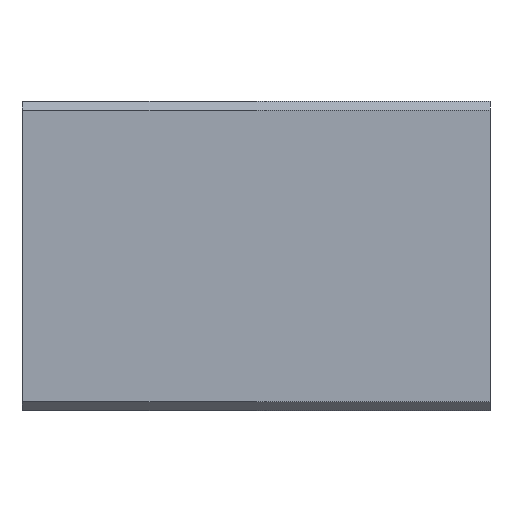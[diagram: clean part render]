
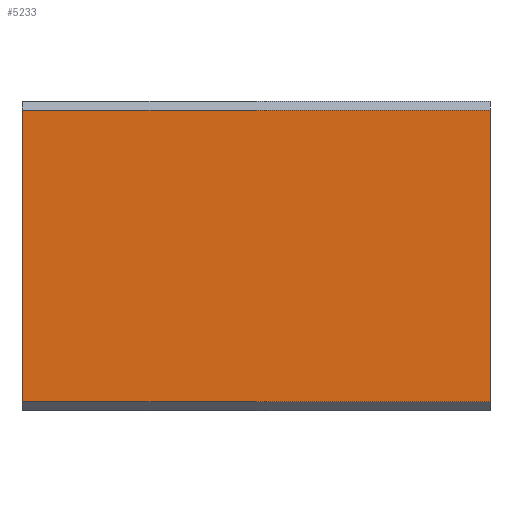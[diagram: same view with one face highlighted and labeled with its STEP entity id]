
A CAD part, front view. The second image highlights one B-rep face of the part: STEP entity #5233.
In plain terms, the highlighted planar face has unit normal (0, -1, 0).
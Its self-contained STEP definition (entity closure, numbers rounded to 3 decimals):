
#27 = AXIS2_PLACEMENT_3D ( 'NONE', #4257, #5776, #2855 ) ;
#597 = VECTOR ( 'NONE', #6131, 1000. ) ;
#655 = CARTESIAN_POINT ( 'NONE',  ( 0., -17.5, 16.5 ) ) ;
#831 = EDGE_CURVE ( 'NONE', #1109, #3261, #7088, .T. ) ;
#1109 = VERTEX_POINT ( 'NONE', #655 ) ;
#1628 = LINE ( 'NONE', #9683, #8492 ) ;
#1736 = VERTEX_POINT ( 'NONE', #9502 ) ;
#1782 = CARTESIAN_POINT ( 'NONE',  ( 53., -17.5, 16.5 ) ) ;
#2170 = EDGE_CURVE ( 'NONE', #3261, #1736, #1628, .T. ) ;
#2560 = VERTEX_POINT ( 'NONE', #2697 ) ;
#2697 = CARTESIAN_POINT ( 'NONE',  ( 53., -17.5, 16.5 ) ) ;
#2855 = DIRECTION ( 'NONE',  ( 0., 0., 1. ) ) ;
#3047 = ORIENTED_EDGE ( 'NONE', *, *, #2170, .T. ) ;
#3069 = EDGE_CURVE ( 'NONE', #2560, #1736, #5781, .T. ) ;
#3261 = VERTEX_POINT ( 'NONE', #6022 ) ;
#3465 = DIRECTION ( 'NONE',  ( 1., 0., 0. ) ) ;
#3663 = EDGE_LOOP ( 'NONE', ( #8777, #3047, #9042, #6248 ) ) ;
#4221 = LINE ( 'NONE', #1782, #8468 ) ;
#4257 = CARTESIAN_POINT ( 'NONE',  ( 53., -17.5, 17.5 ) ) ;
#4651 = DIRECTION ( 'NONE',  ( 0., 0., -1. ) ) ;
#4943 = VECTOR ( 'NONE', #4651, 1000. ) ;
#5121 = EDGE_CURVE ( 'NONE', #2560, #1109, #4221, .T. ) ;
#5233 = ADVANCED_FACE ( 'NONE', ( #8710 ), #8984, .F. ) ;
#5776 = DIRECTION ( 'NONE',  ( 0., 1., 0. ) ) ;
#5781 = LINE ( 'NONE', #8267, #4943 ) ;
#5931 = DIRECTION ( 'NONE',  ( -1., 0., 0. ) ) ;
#6022 = CARTESIAN_POINT ( 'NONE',  ( 0., -17.5, -16.5 ) ) ;
#6131 = DIRECTION ( 'NONE',  ( 0., 0., -1. ) ) ;
#6248 = ORIENTED_EDGE ( 'NONE', *, *, #5121, .T. ) ;
#7088 = LINE ( 'NONE', #7661, #597 ) ;
#7661 = CARTESIAN_POINT ( 'NONE',  ( 0., -17.5, 17.5 ) ) ;
#8267 = CARTESIAN_POINT ( 'NONE',  ( 53., -17.5, 17.5 ) ) ;
#8468 = VECTOR ( 'NONE', #5931, 1000. ) ;
#8492 = VECTOR ( 'NONE', #3465, 1000. ) ;
#8710 = FACE_OUTER_BOUND ( 'NONE', #3663, .T. ) ;
#8777 = ORIENTED_EDGE ( 'NONE', *, *, #831, .T. ) ;
#8984 = PLANE ( 'NONE',  #27 ) ;
#9042 = ORIENTED_EDGE ( 'NONE', *, *, #3069, .F. ) ;
#9502 = CARTESIAN_POINT ( 'NONE',  ( 53., -17.5, -16.5 ) ) ;
#9683 = CARTESIAN_POINT ( 'NONE',  ( 53., -17.5, -16.5 ) ) ;
